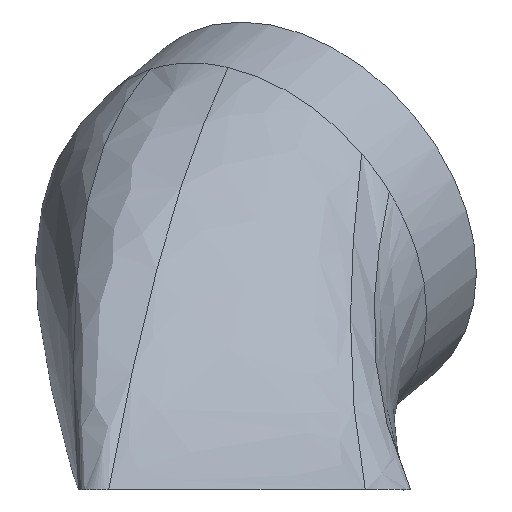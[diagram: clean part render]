
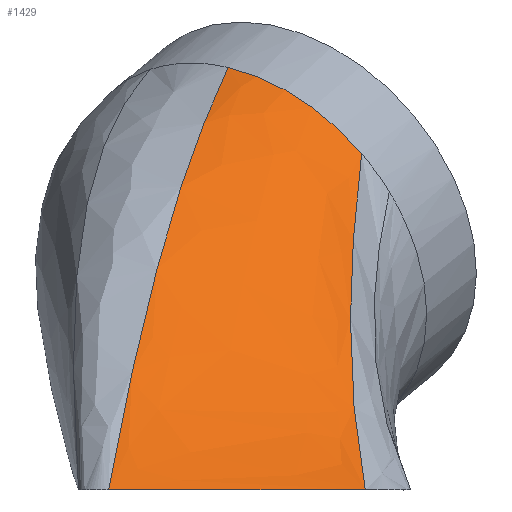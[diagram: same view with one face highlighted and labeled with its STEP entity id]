
A CAD part, left-side view. The second image highlights one B-rep face of the part: STEP entity #1429.
In plain terms, the highlighted free-form (B-spline) face has degree [3, 3] with [7, 5] control points.
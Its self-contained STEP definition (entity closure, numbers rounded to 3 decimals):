
#1093=CARTESIAN_POINT('',(12.05,1.079,27.985));
#1094=VERTEX_POINT('',#1093);
#1102=CARTESIAN_POINT('',(8.831,-7.763,22.279));
#1103=VERTEX_POINT('',#1102);
#1104=CARTESIAN_POINT('',(18.798,-0.365,15.804));
#1105=DIRECTION('',(0.702,-0.549,0.454));
#1106=DIRECTION('',(0.616,0.788,0.));
#1107=AXIS2_PLACEMENT_3D('',#1104,#1105,#1106);
#1108=CIRCLE('',#1107,14.);
#1109=EDGE_CURVE('',#1094,#1103,#1108,.T.);
#1149=CARTESIAN_POINT('',(-14.5,-8.,0.));
#1150=VERTEX_POINT('',#1149);
#1161=CARTESIAN_POINT('',(-14.5,9.,0.));
#1162=VERTEX_POINT('',#1161);
#1163=CARTESIAN_POINT('',(-14.5,9.,0.));
#1164=DIRECTION('',(0.0,-1.0,0.0));
#1165=VECTOR('',#1164,17.);
#1166=LINE('',#1163,#1165);
#1167=EDGE_CURVE('',#1162,#1150,#1166,.T.);
#1371=CARTESIAN_POINT('',(-14.5,-8.,0.));
#1372=CARTESIAN_POINT('',(-5.197,-6.789,6.435));
#1373=CARTESIAN_POINT('',(2.452,-6.688,13.689));
#1374=CARTESIAN_POINT('',(8.831,-7.763,22.279));
#1375=QUASI_UNIFORM_CURVE('',3,(#1371,#1372,#1373,#1374),.UNSPECIFIED.,.F.,.U.);
#1376=EDGE_CURVE('',#1150,#1103,#1375,.T.);
#1381=CARTESIAN_POINT('',(-14.5,-8.,0.));
#1382=CARTESIAN_POINT('',(-14.5,-7.55,0.));
#1383=CARTESIAN_POINT('',(-14.5,-4.56,0.));
#1384=CARTESIAN_POINT('',(-14.5,2.538,0.));
#1385=CARTESIAN_POINT('',(-14.5,7.584,0.));
#1386=CARTESIAN_POINT('',(-14.5,8.85,0.));
#1387=CARTESIAN_POINT('',(-14.5,9.0,0.));
#1388=CARTESIAN_POINT('',(-8.52,-7.221,4.137));
#1389=CARTESIAN_POINT('',(-8.64,-6.88,4.309));
#1390=CARTESIAN_POINT('',(-8.969,-4.403,4.972));
#1391=CARTESIAN_POINT('',(-9.518,1.647,6.391));
#1392=CARTESIAN_POINT('',(-9.85,6.09,7.483));
#1393=CARTESIAN_POINT('',(-9.917,7.343,7.898));
#1394=CARTESIAN_POINT('',(-9.92,7.54,7.998));
#1395=CARTESIAN_POINT('',(-0.28,-6.724,11.099));
#1396=CARTESIAN_POINT('',(-0.439,-6.474,11.401));
#1397=CARTESIAN_POINT('',(-1.203,-4.803,12.937));
#1398=CARTESIAN_POINT('',(-2.07,-0.102,15.962));
#1399=CARTESIAN_POINT('',(-2.086,3.648,17.621));
#1400=CARTESIAN_POINT('',(-1.99,4.858,18.15));
#1401=CARTESIAN_POINT('',(-1.953,5.107,18.281));
#1402=CARTESIAN_POINT('',(6.553,-7.379,19.212));
#1403=CARTESIAN_POINT('',(6.507,-7.171,19.47));
#1404=CARTESIAN_POINT('',(6.19,-5.955,20.983));
#1405=CARTESIAN_POINT('',(6.453,-2.311,23.892));
#1406=CARTESIAN_POINT('',(7.488,0.807,25.257));
#1407=CARTESIAN_POINT('',(7.994,1.929,25.597));
#1408=CARTESIAN_POINT('',(8.124,2.196,25.678));
#1409=CARTESIAN_POINT('',(8.831,-7.763,22.279));
#1410=CARTESIAN_POINT('',(8.835,-7.57,22.507));
#1411=CARTESIAN_POINT('',(8.849,-6.444,23.845));
#1412=CARTESIAN_POINT('',(9.744,-3.151,26.439));
#1413=CARTESIAN_POINT('',(11.207,-0.275,27.654));
#1414=CARTESIAN_POINT('',(11.882,0.813,27.923));
#1415=CARTESIAN_POINT('',(12.05,1.079,27.985));
#1416=B_SPLINE_SURFACE_WITH_KNOTS('',3,3,((#1381,#1388,#1395,#1402,#1409),(#1382,#1389,#1396,#1403,#1410),(#1383,#1390,#1397,#1404,#1411),(#1384,#1391,#1398,#1405,#1412),(#1385,#1392,#1399,#1406,#1413),(#1386,#1393,#1400,#1407,#1414),(#1387,#1394,#1401,#1408,#1415)),.UNSPECIFIED.,.F.,.F.,.F.,(4,1,1,1,4),(4,1,4),(0.0,0.286,0.571,0.857,1.0),(0.0,0.643,1.0),.UNSPECIFIED.);
#1417=ORIENTED_EDGE('',*,*,#1167,.T.);
#1418=ORIENTED_EDGE('',*,*,#1376,.T.);
#1419=ORIENTED_EDGE('',*,*,#1109,.F.);
#1420=CARTESIAN_POINT('',(-14.5,9.,0.));
#1421=CARTESIAN_POINT('',(-7.375,6.729,12.442));
#1422=CARTESIAN_POINT('',(1.059,4.207,21.525));
#1423=CARTESIAN_POINT('',(12.05,1.079,27.985));
#1424=QUASI_UNIFORM_CURVE('',3,(#1420,#1421,#1422,#1423),.UNSPECIFIED.,.F.,.U.);
#1425=EDGE_CURVE('',#1162,#1094,#1424,.T.);
#1426=ORIENTED_EDGE('',*,*,#1425,.F.);
#1427=EDGE_LOOP('',(#1417,#1418,#1419,#1426));
#1428=FACE_OUTER_BOUND('',#1427,.T.);
#1429=ADVANCED_FACE('',(#1428),#1416,.F.);
